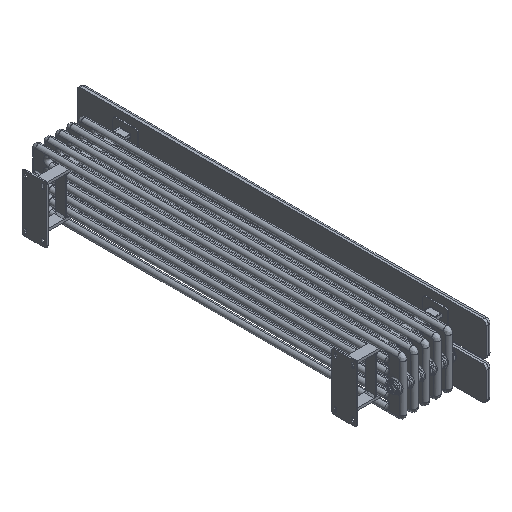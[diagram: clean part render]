
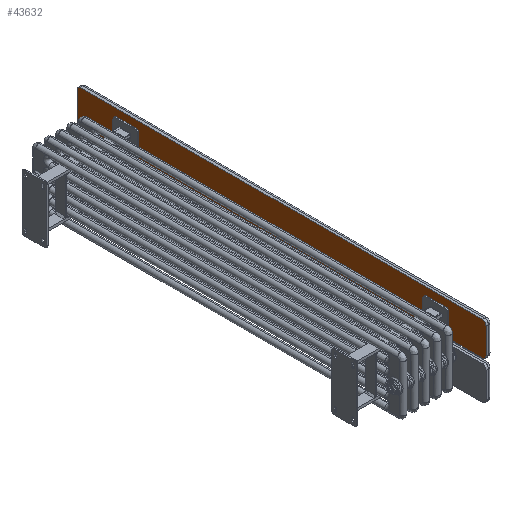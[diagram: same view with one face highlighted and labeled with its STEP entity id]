
A CAD part, isometric view. The second image highlights one B-rep face of the part: STEP entity #43632.
In plain terms, the highlighted planar face has unit normal (-1, 0, 0) as drawn and (0, -1, 0) by its records, which use the part's own axes.
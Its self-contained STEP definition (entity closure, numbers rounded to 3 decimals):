
#43202=DIRECTION('',(1.,0.,0.));
#43203=VECTOR('',#43202,105.);
#43204=CARTESIAN_POINT('',(-52.5,0.,0.));
#43205=LINE('',#43204,#43203);
#43231=CARTESIAN_POINT('',(52.5,0.,15.));
#43232=DIRECTION('',(0.,-1.,0.));
#43233=DIRECTION('',(0.,0.,-1.));
#43234=AXIS2_PLACEMENT_3D('',#43231,#43232,#43233);
#43239=DIRECTION('',(0.,0.,1.));
#43240=VECTOR('',#43239,1620.);
#43241=CARTESIAN_POINT('',(67.5,0.,15.));
#43242=LINE('',#43241,#43240);
#43268=CARTESIAN_POINT('',(52.5,0.,1635.));
#43269=DIRECTION('',(0.,-1.,0.));
#43270=DIRECTION('',(1.,0.,0.));
#43271=AXIS2_PLACEMENT_3D('',#43268,#43269,#43270);
#43276=DIRECTION('',(1.,0.,0.));
#43277=VECTOR('',#43276,105.);
#43278=CARTESIAN_POINT('',(-52.5,0.,1650.));
#43279=LINE('',#43278,#43277);
#43305=CARTESIAN_POINT('',(-52.5,0.,1635.));
#43306=DIRECTION('',(0.,-1.,0.));
#43307=DIRECTION('',(0.,0.,1.));
#43308=AXIS2_PLACEMENT_3D('',#43305,#43306,#43307);
#43313=DIRECTION('',(0.,0.,1.));
#43314=VECTOR('',#43313,1620.);
#43315=CARTESIAN_POINT('',(-67.5,0.,15.));
#43316=LINE('',#43315,#43314);
#43342=CARTESIAN_POINT('',(-52.5,0.,15.));
#43343=DIRECTION('',(0.,-1.,0.));
#43344=DIRECTION('',(-1.,0.,0.));
#43345=AXIS2_PLACEMENT_3D('',#43342,#43343,#43344);
#43471=CARTESIAN_POINT('',(-67.5,0.,1635.));
#43473=VERTEX_POINT('',#43471);
#43475=CARTESIAN_POINT('',(-52.5,0.,1650.));
#43477=VERTEX_POINT('',#43475);
#43484=CARTESIAN_POINT('',(52.5,0.,1650.));
#43485=VERTEX_POINT('',#43484);
#43486=CARTESIAN_POINT('',(67.5,0.,1635.));
#43488=VERTEX_POINT('',#43486);
#43491=CARTESIAN_POINT('',(67.5,0.,15.));
#43493=VERTEX_POINT('',#43491);
#43495=CARTESIAN_POINT('',(52.5,0.,0.));
#43497=VERTEX_POINT('',#43495);
#43504=CARTESIAN_POINT('',(-52.5,0.,0.));
#43505=VERTEX_POINT('',#43504);
#43506=CARTESIAN_POINT('',(-67.5,0.,15.));
#43508=VERTEX_POINT('',#43506);
#43616=CARTESIAN_POINT('',(-67.5,0.,0.));
#43617=DIRECTION('',(0.,-1.,0.));
#43618=DIRECTION('',(1.,0.,0.));
#43619=AXIS2_PLACEMENT_3D('',#43616,#43617,#43618);
#43620=PLANE('',#43619);
#43621=ORIENTED_EDGE('',*,*,#43596,.F.);
#43622=ORIENTED_EDGE('',*,*,#43581,.T.);
#43623=ORIENTED_EDGE('',*,*,#43566,.F.);
#43624=ORIENTED_EDGE('',*,*,#43551,.F.);
#43625=ORIENTED_EDGE('',*,*,#43536,.F.);
#43626=ORIENTED_EDGE('',*,*,#43521,.F.);
#43628=ORIENTED_EDGE('',*,*,#43627,.F.);
#43629=ORIENTED_EDGE('',*,*,#43607,.T.);
#43630=EDGE_LOOP('',(#43621,#43622,#43623,#43624,#43625,#43626,#43628,#43629));
#43631=FACE_OUTER_BOUND('',#43630,.F.);
#43235=CIRCLE('',#43234,15.);
#43272=CIRCLE('',#43271,15.);
#43309=CIRCLE('',#43308,15.);
#43346=CIRCLE('',#43345,15.);
#43521=EDGE_CURVE('',#43505,#43497,#43205,.T.);
#43536=EDGE_CURVE('',#43497,#43493,#43235,.T.);
#43551=EDGE_CURVE('',#43493,#43488,#43242,.T.);
#43566=EDGE_CURVE('',#43488,#43485,#43272,.T.);
#43581=EDGE_CURVE('',#43477,#43485,#43279,.T.);
#43596=EDGE_CURVE('',#43477,#43473,#43309,.T.);
#43607=EDGE_CURVE('',#43508,#43473,#43316,.T.);
#43627=EDGE_CURVE('',#43508,#43505,#43346,.T.);
#43632=ADVANCED_FACE('',(#43631),#43620,.T.);
